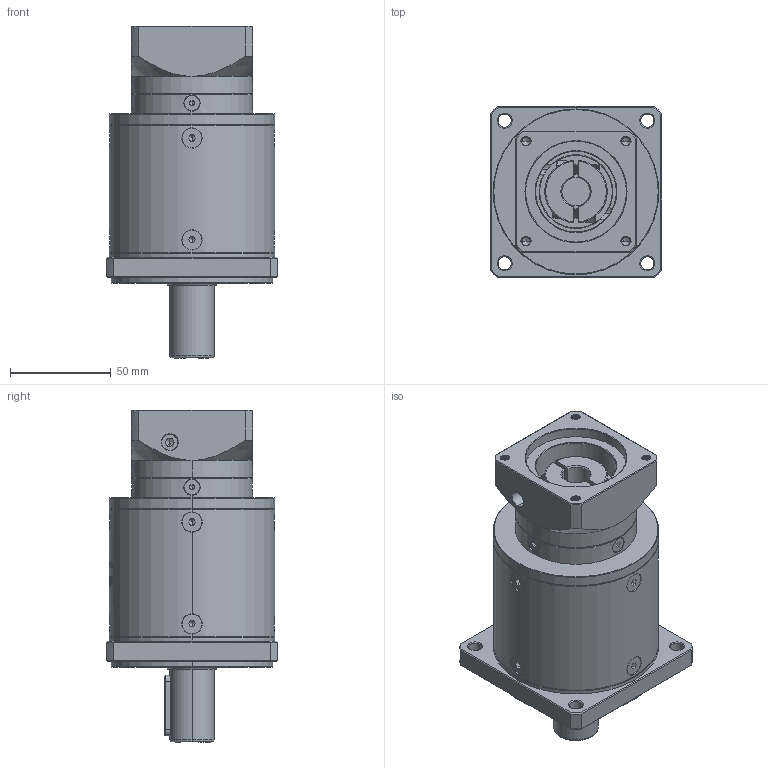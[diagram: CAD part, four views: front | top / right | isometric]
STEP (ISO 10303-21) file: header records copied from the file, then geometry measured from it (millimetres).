
FILE_DESCRIPTION (( 'STEP AP214' ), '1' );
FILE_NAME ('ZF80-D22-L3-14-50-70-M5.step', '2022-05-08T09:27:58', ( '' ), ( 'Microsoft' ), 'SwSTEP 2.0', 'SolidWorks 2016', '' );
FILE_SCHEMA (( 'AUTOMOTIVE_DESIGN' ));
Length unit declared in the file: millimetre
Products named in the file (1): ZF80-D22-L3-14-50-70-M5
Bounding box: 85 x 85 x 164.5 mm (x, y, z)
Volume: 574055.3 mm3; surface area: 73250.3 mm2
Topology: 18 solids, 18 shells, 2041 faces, 5345 edges, 3400 vertices
Faces by surface type: plane 948, cylinder 425, bspline 328, cone 326, torus 14
Entity records: 111038 total; most frequent: CARTESIAN_POINT 41870, ORIENTED_EDGE 10614, DIRECTION 8462, EDGE_CURVE 5307, VERTEX_POINT 3400, LINE 2862, VECTOR 2862, AXIS2_PLACEMENT_3D 2800
